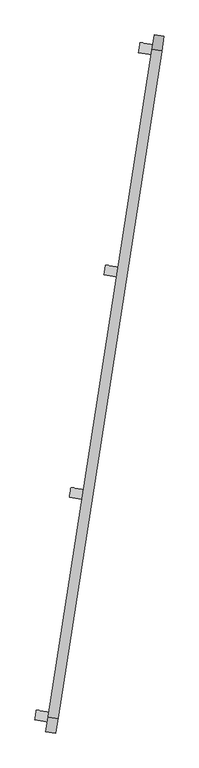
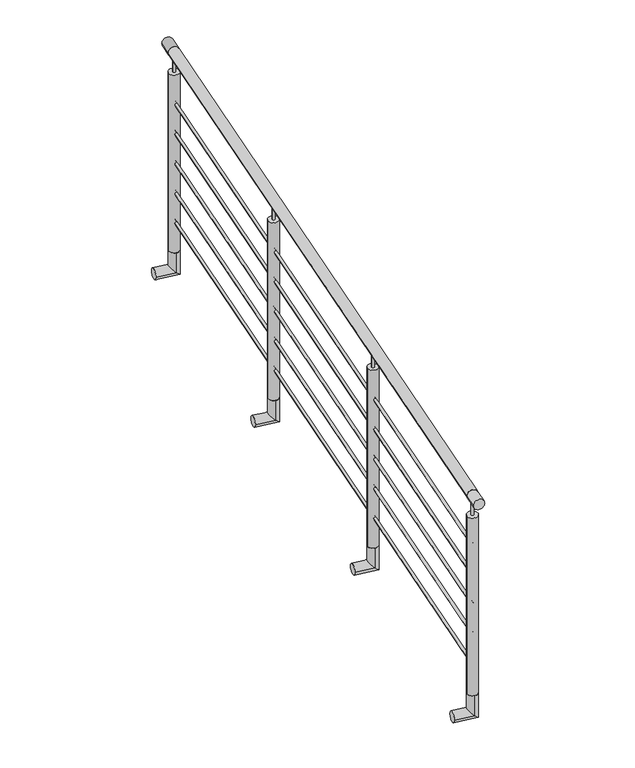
"""IFC4 building model written with IfcOpenShell, lengths in millimetres: railing geometry, Barandal acero inox - sobre ventana."""

from ifc_helpers import new_model, si_unit, point, frame, frame_2d, origin, origin_2d, place, context, project, spatial, circle_curve, ellipse_curve, trimmed, segment, composite_curve, outline, extrude, source, transform, mapped, element, save
from ifc_brep_helpers import plane_surface, cylinder_surface, advanced_brep


def railing_9c19383a(model_context):
    return source(origin(), model_context, "Body", "SolidModel", [
        extrude(outline(composite_curve([segment(trimmed(circle_curve(origin_2d(), 25.4), [point((25.4, 0.0))], [point((-25.4, 0.0))], False, "CARTESIAN"), True, "CONTINUOUS"), segment(trimmed(circle_curve(origin_2d(), 25.4), [point((-25.4, 0.0))], [point((25.4, 0.0))], False, "CARTESIAN"), True, "CONTINUOUS")], self_intersect=False)), frame((-23346.3091717, -74517.0784613, 4200.0), z_axis=(0.15400987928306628, 0.9880693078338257, 0.0), x_axis=(0.9880693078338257, -0.15400987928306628, 0.0)), (0.0, 0.0, 1.0), 3429.9999727),
        extrude(outline(composite_curve([segment(trimmed(circle_curve(origin_2d(), 6.35), [point((6.35, 0.0))], [point((-6.35, 0.0))], False, "CARTESIAN"), True, "CONTINUOUS"), segment(trimmed(circle_curve(origin_2d(), 6.35), [point((-6.35, 0.0))], [point((6.35, 0.0))], False, "CARTESIAN"), True, "CONTINUOUS")], self_intersect=False)), frame((-23346.3091717, -74517.0784613, 3950.0), z_axis=(0.15400987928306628, 0.9880693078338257, 0.0), x_axis=(0.9880693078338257, -0.15400987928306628, 0.0)), (0.0, 0.0, 1.0), 3429.9999727),
        extrude(outline(composite_curve([segment(trimmed(circle_curve(origin_2d(), 6.35), [point((6.35, 0.0))], [point((-6.35, 0.0))], False, "CARTESIAN"), True, "CONTINUOUS"), segment(trimmed(circle_curve(origin_2d(), 6.35), [point((-6.35, 0.0))], [point((6.35, 0.0))], False, "CARTESIAN"), True, "CONTINUOUS")], self_intersect=False)), frame((-23346.3091717, -74517.0784613, 3800.0), z_axis=(0.15400987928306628, 0.9880693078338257, 0.0), x_axis=(0.9880693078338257, -0.15400987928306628, 0.0)), (0.0, 0.0, 1.0), 3429.9999727),
        extrude(outline(composite_curve([segment(trimmed(circle_curve(origin_2d(), 6.35), [point((6.35, 0.0))], [point((-6.35, 0.0))], False, "CARTESIAN"), True, "CONTINUOUS"), segment(trimmed(circle_curve(origin_2d(), 6.35), [point((-6.35, 0.0))], [point((6.35, 0.0))], False, "CARTESIAN"), True, "CONTINUOUS")], self_intersect=False)), frame((-23346.3091717, -74517.0784613, 3650.0), z_axis=(0.15400987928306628, 0.9880693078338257, 0.0), x_axis=(0.9880693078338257, -0.15400987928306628, 0.0)), (0.0, 0.0, 1.0), 3429.9999727),
        extrude(outline(composite_curve([segment(trimmed(circle_curve(origin_2d(), 6.35), [point((6.35, 0.0))], [point((-6.35, 0.0))], False, "CARTESIAN"), True, "CONTINUOUS"), segment(trimmed(circle_curve(origin_2d(), 6.35), [point((-6.35, 0.0))], [point((6.35, 0.0))], False, "CARTESIAN"), True, "CONTINUOUS")], self_intersect=False)), frame((-23346.3091717, -74517.0784613, 3500.0), z_axis=(0.15400987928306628, 0.9880693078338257, 0.0), x_axis=(0.9880693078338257, -0.15400987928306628, 0.0)), (0.0, 0.0, 1.0), 3429.9999727),
        extrude(outline(composite_curve([segment(trimmed(circle_curve(origin_2d(), 6.35), [point((6.35, 0.0))], [point((-6.35, 0.0))], False, "CARTESIAN"), True, "CONTINUOUS"), segment(trimmed(circle_curve(origin_2d(), 6.35), [point((-6.35, 0.0))], [point((6.35, 0.0))], False, "CARTESIAN"), True, "CONTINUOUS")], self_intersect=False)), frame((-23346.3091717, -74517.0784613, 3350.0), z_axis=(0.15400987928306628, 0.9880693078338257, 0.0), x_axis=(0.9880693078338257, -0.15400987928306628, 0.0)), (0.0, 0.0, 1.0), 3429.9999727),
        advanced_brep(
        [(-22998.0517681, -72282.7902891, 3200.0), (-22990.2280663, -72232.5963683, 3200.0), (-22990.2280663, -72232.5963683, 3100.0), (-22998.0517681, -72282.7902891, 3100.0), (-23086.9780058, -72268.9294, 3100.0), (-23079.154304, -72218.7354791, 3100.0)],
        [
            (0, 1, circle_curve(frame((-22994.1399172, -72257.6933287, 3200.0), z_axis=(0.0, 0.0, 1.0), x_axis=(0.15400987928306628, 0.9880693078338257, 0.0)), 25.4)),
            (1, 0, circle_curve(frame((-22994.1399172, -72257.6933287, 3200.0), z_axis=(0.0, 0.0, 1.0), x_axis=(0.15400987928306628, 0.9880693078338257, 0.0)), 25.4)),
            (1, 2),
            (2, 3, ellipse_curve(frame((-22994.1399172, -72257.6933287, 3100.0), z_axis=(0.6986705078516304, -0.1089014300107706, 0.7071067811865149), x_axis=(-0.6986705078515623, 0.10890143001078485, 0.7071067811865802)), 35.9210245, 25.4)),
            (3, 0),
            (3, 2, ellipse_curve(frame((-22994.1399172, -72257.6933287, 3100.0), z_axis=(0.6986705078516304, -0.1089014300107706, 0.7071067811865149), x_axis=(-0.6986705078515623, 0.10890143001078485, 0.7071067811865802)), 35.9210245, 25.4)),
            (4, 5, circle_curve(frame((-23083.0661549, -72243.8324395, 3100.0), z_axis=(-0.9880693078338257, 0.15400987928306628, 0.0), x_axis=(0.15400987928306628, 0.9880693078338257, 0.0)), 25.4)),
            (5, 4, circle_curve(frame((-23083.0661549, -72243.8324395, 3100.0), z_axis=(-0.9880693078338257, 0.15400987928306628, 0.0), x_axis=(0.15400987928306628, 0.9880693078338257, 0.0)), 25.4)),
            (2, 5),
            (4, 3),
        ],
        [
            plane_surface(frame((-22994.1399172, -72257.6933287, 3200.0), z_axis=(0.0, 0.0, 1.0), x_axis=(0.15400987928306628, 0.9880693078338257, 0.0))),
            cylinder_surface(frame((-22994.1399172, -72257.6933287, 3200.0), z_axis=(0.0, 0.0, 1.0), x_axis=(0.15400987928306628, 0.9880693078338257, 0.0)), 25.4),
            plane_surface(frame((-23083.0661549, -72243.8324395, 3100.0), z_axis=(-0.9880693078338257, 0.15400987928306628, 0.0), x_axis=(0.15400987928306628, 0.9880693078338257, 0.0))),
            cylinder_surface(frame((-22994.1399172, -72257.6933287, 3100.0), z_axis=(0.9880693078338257, -0.15400987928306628, 0.0), x_axis=(0.15400987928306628, 0.9880693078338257, 0.0)), 25.4),
        ],
        [
            (0, [[1, 2]]),
            (1, [[3, 4, 5, -2]]),
            (1, [[-5, 6, -3, -1]]),
            (2, [[7, 8]]),
            (3, [[9, -7, 10, -4]]),
            (3, [[-10, -8, -9, -6]]),
        ],
    ),
        extrude(outline(composite_curve([segment(trimmed(circle_curve(frame_2d((-22994.1399172, -72257.6933287)), 6.35), [point((-23000.4141573, -72256.7153659))], [point((-22987.8656771, -72258.6712914))], False, "CARTESIAN"), True, "CONTINUOUS"), segment(trimmed(circle_curve(frame_2d((-22994.1399172, -72257.6933287)), 6.35), [point((-22987.8656771, -72258.6712914))], [point((-23000.4141573, -72256.7153659))], False, "CARTESIAN"), True, "CONTINUOUS")], self_intersect=False)), frame((0.0, 0.0, 4099.6), z_axis=(0.0, 0.0, 1.0), x_axis=(1.0, 0.0, 0.0)), (0.0, 0.0, 1.0), 75.0),
        extrude(outline(composite_curve([segment(trimmed(circle_curve(frame_2d((-22994.1399172, -72257.6933287)), 25.4), [point((-23019.2368776, -72253.7814777))], [point((-22969.0429568, -72261.6051796))], False, "CARTESIAN"), True, "CONTINUOUS"), segment(trimmed(circle_curve(frame_2d((-22994.1399172, -72257.6933287)), 25.4), [point((-22969.0429568, -72261.6051796))], [point((-23019.2368776, -72253.7814777))], False, "CARTESIAN"), True, "CONTINUOUS")], self_intersect=False)), frame((0.0, 0.0, 3200.0), z_axis=(0.0, 0.0, 1.0), x_axis=(1.0, 0.0, 0.0)), (0.0, 0.0, 1.0), 899.6),
        advanced_brep(
        [(-23174.1363954, -73412.4828554, 3200.0), (-23166.3126935, -73362.2889346, 3200.0), (-23166.3126935, -73362.2889346, 3100.0), (-23174.1363954, -73412.4828554, 3100.0), (-23263.0626331, -73398.6219663, 3100.0), (-23255.2389312, -73348.4280454, 3100.0)],
        [
            (0, 1, circle_curve(frame((-23170.2245444, -73387.385895, 3200.0), z_axis=(0.0, 0.0, 1.0), x_axis=(0.15400987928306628, 0.9880693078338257, 0.0)), 25.4)),
            (1, 0, circle_curve(frame((-23170.2245444, -73387.385895, 3200.0), z_axis=(0.0, 0.0, 1.0), x_axis=(0.15400987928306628, 0.9880693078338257, 0.0)), 25.4)),
            (1, 2),
            (2, 3, ellipse_curve(frame((-23170.2245444, -73387.385895, 3100.0), z_axis=(0.6986705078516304, -0.1089014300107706, 0.7071067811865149), x_axis=(-0.6986705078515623, 0.10890143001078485, 0.7071067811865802)), 35.9210245, 25.4)),
            (3, 0),
            (3, 2, ellipse_curve(frame((-23170.2245444, -73387.385895, 3100.0), z_axis=(0.6986705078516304, -0.1089014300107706, 0.7071067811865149), x_axis=(-0.6986705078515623, 0.10890143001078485, 0.7071067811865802)), 35.9210245, 25.4)),
            (4, 5, circle_curve(frame((-23259.1507821, -73373.5250058, 3100.0), z_axis=(-0.9880693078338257, 0.15400987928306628, 0.0), x_axis=(0.15400987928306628, 0.9880693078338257, 0.0)), 25.4)),
            (5, 4, circle_curve(frame((-23259.1507821, -73373.5250058, 3100.0), z_axis=(-0.9880693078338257, 0.15400987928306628, 0.0), x_axis=(0.15400987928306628, 0.9880693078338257, 0.0)), 25.4)),
            (2, 5),
            (4, 3),
        ],
        [
            plane_surface(frame((-23170.2245444, -73387.385895, 3200.0), z_axis=(0.0, 0.0, 1.0), x_axis=(0.15400987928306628, 0.9880693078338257, 0.0))),
            cylinder_surface(frame((-23170.2245444, -73387.385895, 3200.0), z_axis=(0.0, 0.0, 1.0), x_axis=(0.15400987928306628, 0.9880693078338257, 0.0)), 25.4),
            plane_surface(frame((-23259.1507821, -73373.5250058, 3100.0), z_axis=(-0.9880693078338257, 0.15400987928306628, 0.0), x_axis=(0.15400987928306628, 0.9880693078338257, 0.0))),
            cylinder_surface(frame((-23170.2245444, -73387.385895, 3100.0), z_axis=(0.9880693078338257, -0.15400987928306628, 0.0), x_axis=(0.15400987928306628, 0.9880693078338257, 0.0)), 25.4),
        ],
        [
            (0, [[1, 2]]),
            (1, [[3, 4, 5, -2]]),
            (1, [[-5, 6, -3, -1]]),
            (2, [[7, 8]]),
            (3, [[9, -7, 10, -4]]),
            (3, [[-10, -8, -9, -6]]),
        ],
    ),
        extrude(outline(composite_curve([segment(trimmed(circle_curve(frame_2d((-23170.2245444, -73387.385895)), 6.35), [point((-23176.4987845, -73386.4079322))], [point((-23163.9503043, -73388.3638577))], False, "CARTESIAN"), True, "CONTINUOUS"), segment(trimmed(circle_curve(frame_2d((-23170.2245444, -73387.385895)), 6.35), [point((-23163.9503043, -73388.3638577))], [point((-23176.4987845, -73386.4079322))], False, "CARTESIAN"), True, "CONTINUOUS")], self_intersect=False)), frame((0.0, 0.0, 4099.6), z_axis=(0.0, 0.0, 1.0), x_axis=(1.0, 0.0, 0.0)), (0.0, 0.0, 1.0), 75.0),
        extrude(outline(composite_curve([segment(trimmed(circle_curve(frame_2d((-23170.2245444, -73387.385895)), 25.4), [point((-23195.3215049, -73383.474044))], [point((-23145.127584, -73391.2977459))], False, "CARTESIAN"), True, "CONTINUOUS"), segment(trimmed(circle_curve(frame_2d((-23170.2245444, -73387.385895)), 25.4), [point((-23145.127584, -73391.2977459))], [point((-23195.3215049, -73383.474044))], False, "CARTESIAN"), True, "CONTINUOUS")], self_intersect=False)), frame((0.0, 0.0, 3200.0), z_axis=(0.0, 0.0, 1.0), x_axis=(1.0, 0.0, 0.0)), (0.0, 0.0, 1.0), 899.6),
        advanced_brep(
        [(-22821.9671409, -71153.0977228, 3200.0), (-22814.143439, -71102.903802, 3200.0), (-22814.143439, -71102.903802, 3100.0), (-22821.9671409, -71153.0977228, 3100.0), (-22910.8933786, -71139.2368337, 3100.0), (-22903.0696767, -71089.0429128, 3100.0)],
        [
            (0, 1, circle_curve(frame((-22818.05529, -71128.0007624, 3200.0), z_axis=(0.0, 0.0, 1.0), x_axis=(0.15400987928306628, 0.9880693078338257, 0.0)), 25.4)),
            (1, 0, circle_curve(frame((-22818.05529, -71128.0007624, 3200.0), z_axis=(0.0, 0.0, 1.0), x_axis=(0.15400987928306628, 0.9880693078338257, 0.0)), 25.4)),
            (1, 2),
            (2, 3, ellipse_curve(frame((-22818.05529, -71128.0007624, 3100.0), z_axis=(0.6986705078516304, -0.1089014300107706, 0.7071067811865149), x_axis=(-0.6986705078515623, 0.10890143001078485, 0.7071067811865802)), 35.9210245, 25.4)),
            (3, 0),
            (3, 2, ellipse_curve(frame((-22818.05529, -71128.0007624, 3100.0), z_axis=(0.6986705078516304, -0.1089014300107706, 0.7071067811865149), x_axis=(-0.6986705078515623, 0.10890143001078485, 0.7071067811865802)), 35.9210245, 25.4)),
            (4, 5, circle_curve(frame((-22906.9815277, -71114.1398733, 3100.0), z_axis=(-0.9880693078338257, 0.15400987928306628, 0.0), x_axis=(0.15400987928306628, 0.9880693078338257, 0.0)), 25.4)),
            (5, 4, circle_curve(frame((-22906.9815277, -71114.1398733, 3100.0), z_axis=(-0.9880693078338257, 0.15400987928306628, 0.0), x_axis=(0.15400987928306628, 0.9880693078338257, 0.0)), 25.4)),
            (2, 5),
            (4, 3),
        ],
        [
            plane_surface(frame((-22818.05529, -71128.0007624, 3200.0), z_axis=(0.0, 0.0, 1.0), x_axis=(0.15400987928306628, 0.9880693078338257, 0.0))),
            cylinder_surface(frame((-22818.05529, -71128.0007624, 3200.0), z_axis=(0.0, 0.0, 1.0), x_axis=(0.15400987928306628, 0.9880693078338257, 0.0)), 25.4),
            plane_surface(frame((-22906.9815277, -71114.1398733, 3100.0), z_axis=(-0.9880693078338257, 0.15400987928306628, 0.0), x_axis=(0.15400987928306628, 0.9880693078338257, 0.0))),
            cylinder_surface(frame((-22818.05529, -71128.0007624, 3100.0), z_axis=(0.9880693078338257, -0.15400987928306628, 0.0), x_axis=(0.15400987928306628, 0.9880693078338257, 0.0)), 25.4),
        ],
        [
            (0, [[1, 2]]),
            (1, [[3, 4, 5, -2]]),
            (1, [[-5, 6, -3, -1]]),
            (2, [[7, 8]]),
            (3, [[9, -7, 10, -4]]),
            (3, [[-10, -8, -9, -6]]),
        ],
    ),
        extrude(outline(composite_curve([segment(trimmed(circle_curve(frame_2d((0.0, 25.4000001)), 25.4), [point((0.0, 50.8000001))], [point((0.0, 0.0))], False, "CARTESIAN"), True, "CONTINUOUS"), segment(trimmed(circle_curve(frame_2d((0.0, 25.4000001)), 25.4), [point((0.0, 0.0))], [point((0.0, 50.8000001))], False, "CARTESIAN"), True, "CONTINUOUS")], self_intersect=False)), frame((-22792.9583295, -71131.9126133, 4200.0), z_axis=(0.15400987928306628, 0.9880693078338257, 0.0), x_axis=(0.0, 0.0, -1.0)), (0.0, 0.0, 1.0), 75.0),
        extrude(outline(composite_curve([segment(trimmed(circle_curve(frame_2d((-22818.05529, -71128.0007624)), 6.35), [point((-22824.3295301, -71127.0227997))], [point((-22811.7810499, -71128.9787251))], False, "CARTESIAN"), True, "CONTINUOUS"), segment(trimmed(circle_curve(frame_2d((-22818.05529, -71128.0007624)), 6.35), [point((-22811.7810499, -71128.9787251))], [point((-22824.3295301, -71127.0227997))], False, "CARTESIAN"), True, "CONTINUOUS")], self_intersect=False)), frame((0.0, 0.0, 4099.6), z_axis=(0.0, 0.0, 1.0), x_axis=(1.0, 0.0, 0.0)), (0.0, 0.0, 1.0), 75.0),
        extrude(outline(composite_curve([segment(trimmed(circle_curve(frame_2d((-22818.05529, -71128.0007624)), 25.4), [point((-22843.1522504, -71124.0889115))], [point((-22792.9583295, -71131.9126133))], False, "CARTESIAN"), True, "CONTINUOUS"), segment(trimmed(circle_curve(frame_2d((-22818.05529, -71128.0007624)), 25.4), [point((-22792.9583295, -71131.9126133))], [point((-22843.1522504, -71124.0889115))], False, "CARTESIAN"), True, "CONTINUOUS")], self_intersect=False)), frame((0.0, 0.0, 3200.0), z_axis=(0.0, 0.0, 1.0), x_axis=(1.0, 0.0, 0.0)), (0.0, 0.0, 1.0), 899.6),
        advanced_brep(
        [(-23350.2210226, -74542.1754217, 3200.0), (-23342.3973208, -74491.9815008, 3200.0), (-23342.3973208, -74491.9815008, 3100.0), (-23350.2210226, -74542.1754217, 3100.0), (-23439.1472603, -74528.3145325, 3100.0), (-23431.3235585, -74478.1206117, 3100.0)],
        [
            (0, 1, circle_curve(frame((-23346.3091717, -74517.0784613, 3200.0), z_axis=(0.0, 0.0, 1.0), x_axis=(0.15400987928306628, 0.9880693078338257, 0.0)), 25.4)),
            (1, 0, circle_curve(frame((-23346.3091717, -74517.0784613, 3200.0), z_axis=(0.0, 0.0, 1.0), x_axis=(0.15400987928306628, 0.9880693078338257, 0.0)), 25.4)),
            (1, 2),
            (2, 3, ellipse_curve(frame((-23346.3091717, -74517.0784613, 3100.0), z_axis=(0.6986705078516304, -0.1089014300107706, 0.7071067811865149), x_axis=(-0.6986705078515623, 0.10890143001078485, 0.7071067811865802)), 35.9210245, 25.4)),
            (3, 0),
            (3, 2, ellipse_curve(frame((-23346.3091717, -74517.0784613, 3100.0), z_axis=(0.6986705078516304, -0.1089014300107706, 0.7071067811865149), x_axis=(-0.6986705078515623, 0.10890143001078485, 0.7071067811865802)), 35.9210245, 25.4)),
            (4, 5, circle_curve(frame((-23435.2354094, -74503.2175721, 3100.0), z_axis=(-0.9880693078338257, 0.15400987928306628, 0.0), x_axis=(0.15400987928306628, 0.9880693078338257, 0.0)), 25.4)),
            (5, 4, circle_curve(frame((-23435.2354094, -74503.2175721, 3100.0), z_axis=(-0.9880693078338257, 0.15400987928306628, 0.0), x_axis=(0.15400987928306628, 0.9880693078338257, 0.0)), 25.4)),
            (2, 5),
            (4, 3),
        ],
        [
            plane_surface(frame((-23346.3091717, -74517.0784613, 3200.0), z_axis=(0.0, 0.0, 1.0), x_axis=(0.15400987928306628, 0.9880693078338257, 0.0))),
            cylinder_surface(frame((-23346.3091717, -74517.0784613, 3200.0), z_axis=(0.0, 0.0, 1.0), x_axis=(0.15400987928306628, 0.9880693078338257, 0.0)), 25.4),
            plane_surface(frame((-23435.2354094, -74503.2175721, 3100.0), z_axis=(-0.9880693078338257, 0.15400987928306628, 0.0), x_axis=(0.15400987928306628, 0.9880693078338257, 0.0))),
            cylinder_surface(frame((-23346.3091717, -74517.0784613, 3100.0), z_axis=(0.9880693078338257, -0.15400987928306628, 0.0), x_axis=(0.15400987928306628, 0.9880693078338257, 0.0)), 25.4),
        ],
        [
            (0, [[1, 2]]),
            (1, [[3, 4, 5, -2]]),
            (1, [[-5, 6, -3, -1]]),
            (2, [[7, 8]]),
            (3, [[9, -7, 10, -4]]),
            (3, [[-10, -8, -9, -6]]),
        ],
    ),
        extrude(outline(composite_curve([segment(trimmed(circle_curve(frame_2d((0.0, 25.4)), 25.4), [point((0.0, 50.8000001))], [point((0.0, 0.0))], False, "CARTESIAN"), True, "CONTINUOUS"), segment(trimmed(circle_curve(frame_2d((0.0, 25.4)), 25.4), [point((0.0, 0.0))], [point((0.0, 50.8000001))], False, "CARTESIAN"), True, "CONTINUOUS")], self_intersect=False)), frame((-23332.7629522, -74595.0955103, 4200.0), z_axis=(0.15400987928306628, 0.9880693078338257, 0.0), x_axis=(0.0, 0.0, -1.0)), (0.0, 0.0, 1.0), 75.0),
        extrude(outline(composite_curve([segment(trimmed(circle_curve(frame_2d((-23346.3091717, -74517.0784613)), 6.35), [point((-23352.5834118, -74516.1004985))], [point((-23340.0349316, -74518.056424))], False, "CARTESIAN"), True, "CONTINUOUS"), segment(trimmed(circle_curve(frame_2d((-23346.3091717, -74517.0784613)), 6.35), [point((-23340.0349316, -74518.056424))], [point((-23352.5834118, -74516.1004985))], False, "CARTESIAN"), True, "CONTINUOUS")], self_intersect=False)), frame((0.0, 0.0, 4099.6), z_axis=(0.0, 0.0, 1.0), x_axis=(1.0, 0.0, 0.0)), (0.0, 0.0, 1.0), 75.0),
        extrude(outline(composite_curve([segment(trimmed(circle_curve(frame_2d((-23346.3091717, -74517.0784613)), 25.4), [point((-23371.4061321, -74513.1666103))], [point((-23321.2122113, -74520.9903122))], False, "CARTESIAN"), True, "CONTINUOUS"), segment(trimmed(circle_curve(frame_2d((-23346.3091717, -74517.0784613)), 25.4), [point((-23321.2122113, -74520.9903122))], [point((-23371.4061321, -74513.1666103))], False, "CARTESIAN"), True, "CONTINUOUS")], self_intersect=False)), frame((0.0, 0.0, 3200.0), z_axis=(0.0, 0.0, 1.0), x_axis=(1.0, 0.0, 0.0)), (0.0, 0.0, 1.0), 899.6),
    ])


if __name__ == "__main__":
    model = new_model("IFC4")
    model_context = context("Model", 3, world=origin())
    ifc_project = project(units=[si_unit("LENGTHUNIT", "METRE", prefix="MILLI")], contexts=[model_context])
    site = spatial("IfcSite", under=ifc_project)
    building = spatial("IfcBuilding", under=site)
    placement = place(None, origin())
    railing_shape = railing_9c19383a(model_context)
    element("IfcRailing", 1, ObjectType="Barandal acero inox - sobre ventana", at=placement, inside=building, context=model_context, shape_type="MappedRepresentation", body=[
        mapped(railing_shape, transform((0.0, 0.0, 0.0), x_axis=(1.0, 0.0, 0.0), y_axis=(0.0, 1.0, 0.0), z_axis=(0.0, 0.0, 1.0))),
    ])
    save(model, "model.ifc")
